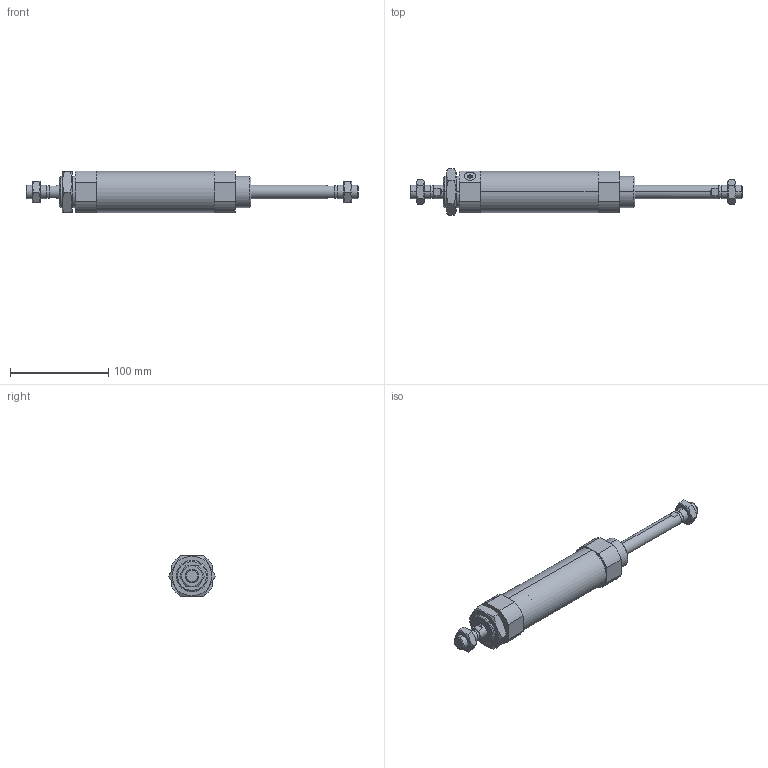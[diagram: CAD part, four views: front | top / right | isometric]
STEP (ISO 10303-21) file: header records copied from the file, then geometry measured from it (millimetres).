
FILE_DESCRIPTION (( 'STEP AP203' ), '1' );
FILE_NAME ('CSM2B40-75-P.STEP', '2020-07-20T16:50:38', ( '' ), ( '' ), 'SwSTEP 2.0', 'SolidWorks 2019', '' );
FILE_SCHEMA (( 'CONFIG_CONTROL_DESIGN' ));
Length unit declared in the file: millimetre
Products named in the file (1): CSM2B40-75-P
Bounding box: 338 x 47.34 x 42.5 mm (x, y, z)
Volume: 208583.1 mm3; surface area: 70825.5 mm2
Topology: 5 solids, 5 shells, 155 faces, 362 edges, 227 vertices
Faces by surface type: plane 63, cylinder 48, cone 44
Entity records: 5727 total; most frequent: CARTESIAN_POINT 2107, DIRECTION 750, ORIENTED_EDGE 720, EDGE_CURVE 360, AXIS2_PLACEMENT_3D 296, VERTEX_POINT 227, EDGE_LOOP 179, VECTOR 158
